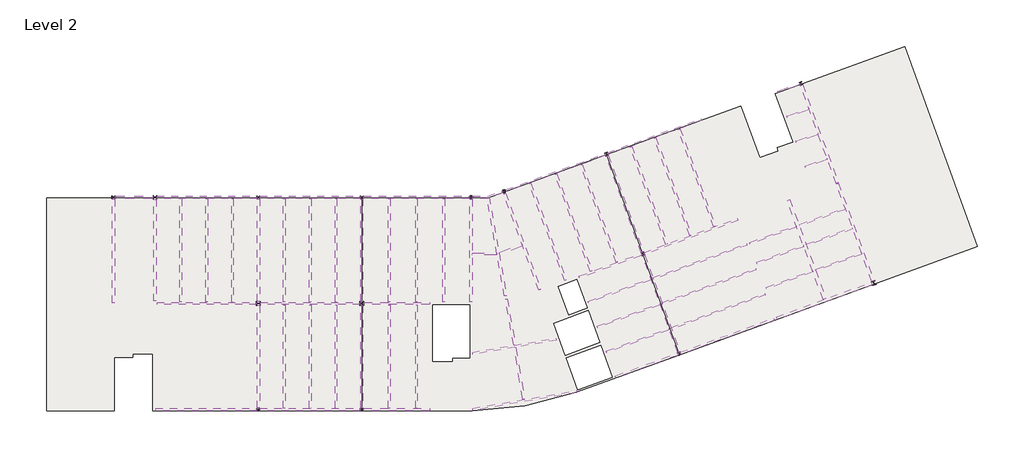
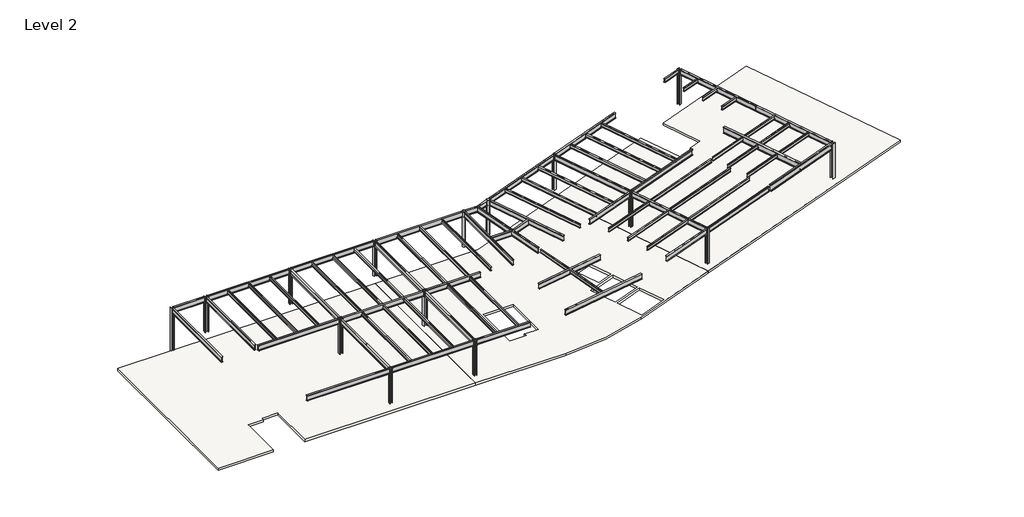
# One storey: 74 beams, 15 columns, 1 slab.
"""IFC4 building model written with IfcOpenShell, lengths in millimetres."""

from ifc_helpers import new_model, si_unit, point, frame, frame_2d, origin, place, context, project, spatial, polyline, circle_curve, trimmed, segment, composite_curve, outline, extrude, faceted_brep, transform, mapped, element, save
from components import beam_9097a8d7, ub_universal_beams_e915e172, ub_universal_beams_a95554c7, ub_universal_beams_b6dbdd7a, ub_universal_beams_885cc86f, ub_universal_beams_c84566a2, ub_universal_beams_4841b023, ub_universal_beams_20791346, ub_universal_beams_18d3feb0, ub_universal_beams_59459dd6, ub_universal_beams_568b5c51, ub_universal_beams_e00400c9, ub_universal_beams_f823aa85, ub_universal_beams_cdbcbb51, ub_universal_beams_2db27d90, ub_universal_beams_feb0265b, ub_universal_beams_78ad538f, ub_universal_beams_801fcbf0, ub_universal_beams_7192e0ee, ub_universal_beams_e0a47d06, ub_universal_beams_f5dc209c, ub_universal_beams_f862a4b8, ub_universal_beams_0fc11a2d, ub_universal_beams_7b4bcd9a, ub_universal_beams_8d1efc97, ub_universal_beams_2b7a043a, ub_universal_beams_8d2b0bf5, ub_universal_beams_43212cfb, ub_universal_beams_8ec85ef7, ub_universal_beams_16a75a32, ub_universal_beams_b9a7bbe5, ub_universal_beams_60794b88, ub_universal_beams_0c249d50, ub_universal_beams_c91190e6, ub_universal_beams_4370fdf8, ub_universal_beams_f6859559, ub_universal_beams_a9511354, ub_universal_beams_5bb895c1, ub_universal_beams_66b76362, ub_universal_beams_d54c9229, ub_universal_beams_83364cc9, ub_universal_beams_55dbae19, column_55d45f16, uc_universal_columns_column_67913ea7, uc_universal_columns_column_df0e8a14

model = new_model("IFC4")

# Units and contexts
model_context = context("Model", 3, world=origin())
ifc_project = project(units=[si_unit("LENGTHUNIT", "METRE", prefix="MILLI")], contexts=[model_context])

# Site, building, storey
site = spatial("IfcSite", under=ifc_project)
building = spatial("IfcBuilding", under=site)
storey = spatial("IfcBuildingStorey", under=building, Name="Level 2", Elevation=7595.0)

# Beams
placement = place(None, origin())
beam_shape = beam_9097a8d7(model_context)
element("IfcBeam", 1, ObjectType="Cranked Beam B3 : Cranked Beam B1", at=placement, inside=storey, context=model_context, shape_type="MappedRepresentation", body=[
    mapped(beam_shape, transform((0.0, 0.0, 0.0), x_axis=(1.0, 0.0, 0.0), y_axis=(0.0, 1.0, 0.0), z_axis=(0.0, 0.0, 1.0))),
])
ub_universal_beams_shape = ub_universal_beams_e915e172(model_context)
element("IfcBeam", 2, ObjectType="UB-Universal Beams : UB 18\" x 6\" x 2 1/2\"", at=placement, inside=storey, context=model_context, shape_type="MappedRepresentation", body=[
    mapped(ub_universal_beams_shape, transform((11712.2000023, 15363.2000005, 11471.0), x_axis=(1.0, 0.0, 0.0), y_axis=(0.0, 1.0, 0.0), z_axis=(0.0, 0.0, 1.0))),
])
ub_universal_beams_2_shape = ub_universal_beams_a95554c7(model_context)
element("IfcBeam", 3, ObjectType="UB-Universal Beams : UB 18\" x 6\" x 2 1/2\"", at=placement, inside=storey, context=model_context, shape_type="MappedRepresentation", body=[
    mapped(ub_universal_beams_2_shape, transform((19012.2000023, 15363.2000005, 11471.0), x_axis=(1.0, 0.0, 0.0), y_axis=(0.0, 1.0, 0.0), z_axis=(0.0, 0.0, 1.0))),
])
element("IfcBeam", 4, ObjectType="UB-Universal Beams : UB 18\" x 6\" x 2 1/2\"", at=placement, inside=storey, context=model_context, shape_type="MappedRepresentation", body=[
    mapped(ub_universal_beams_2_shape, transform((19012.2000022, 363.2000005, 11471.0), x_axis=(1.0, 0.0, 0.0), y_axis=(0.0, 1.0, 0.0), z_axis=(0.0, 0.0, 1.0))),
])
ub_universal_beams_3_shape = ub_universal_beams_b6dbdd7a(model_context)
element("IfcBeam", 5, ObjectType="UB-Universal Beams : UB 18\" x 6\" x 2 1/2\"", at=placement, inside=storey, context=model_context, shape_type="MappedRepresentation", body=[
    mapped(ub_universal_beams_3_shape, transform((26512.2000022, 15363.2000005, 11471.0), x_axis=(1.0, 0.0, 0.0), y_axis=(0.0, 1.0, 0.0), z_axis=(0.0, 0.0, 1.0))),
])
ub_universal_beams_4_shape = ub_universal_beams_885cc86f(model_context)
element("IfcBeam", 6, ObjectType="UB-Universal Beams : UB 18\" x 6\" x 2 1/2\"", at=placement, inside=storey, context=model_context, shape_type="MappedRepresentation", body=[
    mapped(ub_universal_beams_4_shape, transform((11674.7000023, 363.2000005, 11471.0), x_axis=(-1.0, 0.0, 0.0), y_axis=(0.0, -1.0, 0.0), z_axis=(0.0, 0.0, 1.0))),
])
ub_universal_beams_5_shape = ub_universal_beams_c84566a2(model_context)
element("IfcBeam", 7, ObjectType="UB-Universal Beams : UB 18\" x 6\" x 2 1/2\"", at=placement, inside=storey, context=model_context, shape_type="MappedRepresentation", body=[
    mapped(ub_universal_beams_5_shape, transform((19012.2000023, 7863.2000004, 11471.0), x_axis=(1.0, 0.0, 0.0), y_axis=(0.0, 1.0, 0.0), z_axis=(0.0, 0.0, 1.0))),
])
ub_universal_beams_6_shape = ub_universal_beams_4841b023(model_context)
element("IfcBeam", 8, ObjectType="UB-Universal Beams : UB 18\" x 6\" x 2 1/2\"", at=placement, inside=storey, context=model_context, shape_type="MappedRepresentation", body=[
    mapped(ub_universal_beams_6_shape, transform((25112.2000025, 7863.2000004, 11471.0), x_axis=(1.0, 0.0, 0.0), y_axis=(0.0, 1.0, 0.0), z_axis=(0.0, 0.0, 1.0))),
])
ub_universal_beams_7_shape = ub_universal_beams_20791346(model_context)
element("IfcBeam", 9, ObjectType="UB-Universal Beams : UB 18\" x 6\" x 2 1/2\"", at=placement, inside=storey, context=model_context, shape_type="MappedRepresentation", body=[
    mapped(ub_universal_beams_7_shape, transform((25112.2000025, 363.2000005, 11471.0), x_axis=(1.0, 0.0, 0.0), y_axis=(0.0, 1.0, 0.0), z_axis=(0.0, 0.0, 1.0))),
])
ub_universal_beams_8_shape = ub_universal_beams_18d3feb0(model_context)
element("IfcBeam", 10, ObjectType="UB-Universal Beams : UB 18\" x 6\" x 2 1/2\"", at=placement, inside=storey, context=model_context, shape_type="MappedRepresentation", body=[
    mapped(ub_universal_beams_8_shape, transform((8062.2000022, 11613.2000005, 11471.0), x_axis=(0.0, 1.0, 0.0), y_axis=(-1.0, 0.0, 0.0), z_axis=(0.0, 0.0, 1.0))),
])
ub_universal_beams_9_shape = ub_universal_beams_59459dd6(model_context)
element("IfcBeam", 11, ObjectType="UB-Universal Beams : UB 18\" x 6\" x 2 1/2\"", at=placement, inside=storey, context=model_context, shape_type="MappedRepresentation", body=[
    mapped(ub_universal_beams_9_shape, transform((15362.2000023, 4113.2000005, 11471.0), x_axis=(0.0, 1.0, 0.0), y_axis=(-1.0, 0.0, 0.0), z_axis=(0.0, 0.0, 1.0))),
])
element("IfcBeam", 12, ObjectType="UB-Universal Beams : UB 18\" x 6\" x 2 1/2\"", at=placement, inside=storey, context=model_context, shape_type="MappedRepresentation", body=[
    mapped(ub_universal_beams_9_shape, transform((22662.2000022, 4113.2000005, 11471.0), x_axis=(0.0, 1.0, 0.0), y_axis=(-1.0, 0.0, 0.0), z_axis=(0.0, 0.0, 1.0))),
])
ub_universal_beams_10_shape = ub_universal_beams_568b5c51(model_context)
element("IfcBeam", 13, ObjectType="UB-Universal Beams : UB 18\" x 6\" x 2 1/2\"", at=placement, inside=storey, context=model_context, shape_type="MappedRepresentation", body=[
    mapped(ub_universal_beams_10_shape, transform((15362.2000023, 11613.2000005, 11471.0), x_axis=(0.0, 1.0, 0.0), y_axis=(-1.0, 0.0, 0.0), z_axis=(0.0, 0.0, 1.0))),
])
element("IfcBeam", 14, ObjectType="UB-Universal Beams : UB 18\" x 6\" x 2 1/2\"", at=placement, inside=storey, context=model_context, shape_type="MappedRepresentation", body=[
    mapped(ub_universal_beams_10_shape, transform((22662.2000022, 11613.2000005, 11471.0), x_axis=(0.0, 1.0, 0.0), y_axis=(-1.0, 0.0, 0.0), z_axis=(0.0, 0.0, 1.0))),
])
ub_universal_beams_11_shape = ub_universal_beams_e00400c9(model_context)
element("IfcBeam", 15, ObjectType="UB-Universal Beams : UB 18\" x 6\" x 2 1/2\"", at=placement, inside=storey, context=model_context, shape_type="MappedRepresentation", body=[
    mapped(ub_universal_beams_11_shape, transform((30362.2000022, 11613.2000005, 11471.0), x_axis=(0.0, 1.0, 0.0), y_axis=(-1.0, 0.0, 0.0), z_axis=(0.0, 0.0, 1.0))),
])
ub_universal_beams_12_shape = ub_universal_beams_f823aa85(model_context)
element("IfcBeam", 16, ObjectType="UB-Universal Beams : UB 12\" x 5\" x 1 1/2\"", at=placement, inside=storey, context=model_context, shape_type="MappedRepresentation", body=[
    mapped(ub_universal_beams_12_shape, transform((9887.2000022, 11613.2000005, 11547.8), x_axis=(0.0, 1.0, 0.0), y_axis=(-1.0, 0.0, 0.0), z_axis=(0.0, 0.0, 1.0))),
])
element("IfcBeam", 17, ObjectType="UB-Universal Beams : UB 12\" x 5\" x 1 1/2\"", at=placement, inside=storey, context=model_context, shape_type="MappedRepresentation", body=[
    mapped(ub_universal_beams_12_shape, transform((11712.2000022, 11613.2000005, 11547.8), x_axis=(0.0, 1.0, 0.0), y_axis=(-1.0, 0.0, 0.0), z_axis=(0.0, 0.0, 1.0))),
])
element("IfcBeam", 18, ObjectType="UB-Universal Beams : UB 12\" x 5\" x 1 1/2\"", at=placement, inside=storey, context=model_context, shape_type="MappedRepresentation", body=[
    mapped(ub_universal_beams_12_shape, transform((13537.2000023, 11613.2000005, 11547.8), x_axis=(0.0, 1.0, 0.0), y_axis=(-1.0, 0.0, 0.0), z_axis=(0.0, 0.0, 1.0))),
])
element("IfcBeam", 19, ObjectType="UB-Universal Beams : UB 12\" x 5\" x 1 1/2\"", at=placement, inside=storey, context=model_context, shape_type="MappedRepresentation", body=[
    mapped(ub_universal_beams_12_shape, transform((17187.2000023, 11613.2000005, 11547.8), x_axis=(0.0, 1.0, 0.0), y_axis=(-1.0, 0.0, 0.0), z_axis=(0.0, 0.0, 1.0))),
])
element("IfcBeam", 20, ObjectType="UB-Universal Beams : UB 12\" x 5\" x 1 1/2\"", at=placement, inside=storey, context=model_context, shape_type="MappedRepresentation", body=[
    mapped(ub_universal_beams_12_shape, transform((19012.2000023, 11613.2000005, 11547.8), x_axis=(0.0, 1.0, 0.0), y_axis=(-1.0, 0.0, 0.0), z_axis=(0.0, 0.0, 1.0))),
])
element("IfcBeam", 21, ObjectType="UB-Universal Beams : UB 12\" x 5\" x 1 1/2\"", at=placement, inside=storey, context=model_context, shape_type="MappedRepresentation", body=[
    mapped(ub_universal_beams_12_shape, transform((20837.2000022, 11613.2000005, 11547.8), x_axis=(0.0, 1.0, 0.0), y_axis=(-1.0, 0.0, 0.0), z_axis=(0.0, 0.0, 1.0))),
])
element("IfcBeam", 22, ObjectType="UB-Universal Beams : UB 12\" x 5\" x 1 1/2\"", at=placement, inside=storey, context=model_context, shape_type="MappedRepresentation", body=[
    mapped(ub_universal_beams_12_shape, transform((24587.2000022, 11613.2000005, 11547.8), x_axis=(0.0, 1.0, 0.0), y_axis=(-1.0, 0.0, 0.0), z_axis=(0.0, 0.0, 1.0))),
])
element("IfcBeam", 23, ObjectType="UB-Universal Beams : UB 12\" x 5\" x 1 1/2\"", at=placement, inside=storey, context=model_context, shape_type="MappedRepresentation", body=[
    mapped(ub_universal_beams_12_shape, transform((26512.2000022, 11613.2000005, 11547.8), x_axis=(0.0, 1.0, 0.0), y_axis=(-1.0, 0.0, 0.0), z_axis=(0.0, 0.0, 1.0))),
])
element("IfcBeam", 24, ObjectType="UB-Universal Beams : UB 12\" x 5\" x 1 1/2\"", at=placement, inside=storey, context=model_context, shape_type="MappedRepresentation", body=[
    mapped(ub_universal_beams_12_shape, transform((17187.2000022, 4113.2000005, 11547.8), x_axis=(0.0, 1.0, 0.0), y_axis=(-1.0, 0.0, 0.0), z_axis=(0.0, 0.0, 1.0))),
])
element("IfcBeam", 25, ObjectType="UB-Universal Beams : UB 12\" x 5\" x 1 1/2\"", at=placement, inside=storey, context=model_context, shape_type="MappedRepresentation", body=[
    mapped(ub_universal_beams_12_shape, transform((19012.2000022, 4113.2000005, 11547.8), x_axis=(0.0, 1.0, 0.0), y_axis=(-1.0, 0.0, 0.0), z_axis=(0.0, 0.0, 1.0))),
])
element("IfcBeam", 26, ObjectType="UB-Universal Beams : UB 12\" x 5\" x 1 1/2\"", at=placement, inside=storey, context=model_context, shape_type="MappedRepresentation", body=[
    mapped(ub_universal_beams_12_shape, transform((20837.2000022, 4113.2000005, 11547.8), x_axis=(0.0, 1.0, 0.0), y_axis=(-1.0, 0.0, 0.0), z_axis=(0.0, 0.0, 1.0))),
])
element("IfcBeam", 27, ObjectType="UB-Universal Beams : UB 12\" x 5\" x 1 1/2\"", at=placement, inside=storey, context=model_context, shape_type="MappedRepresentation", body=[
    mapped(ub_universal_beams_12_shape, transform((24587.2000022, 4113.2000004, 11547.8), x_axis=(0.0, 1.0, 0.0), y_axis=(-1.0, 0.0, 0.0), z_axis=(0.0, 0.0, 1.0))),
])
element("IfcBeam", 28, ObjectType="UB-Universal Beams : UB 12\" x 5\" x 1 1/2\"", at=placement, inside=storey, context=model_context, shape_type="MappedRepresentation", body=[
    mapped(ub_universal_beams_12_shape, transform((26512.2000022, 4113.2000004, 11547.8), x_axis=(0.0, 1.0, 0.0), y_axis=(-1.0, 0.0, 0.0), z_axis=(0.0, 0.0, 1.0))),
])
element("IfcBeam", 29, ObjectType="UB-Universal Beams : UB 12\" x 5\" x 1 1/2\"", at=placement, inside=storey, context=model_context, shape_type="MappedRepresentation", body=[
    mapped(ub_universal_beams_12_shape, transform((39409.0148654, 14226.6858637, 11547.8), x_axis=(0.34202014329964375, -0.9396926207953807, 0.0), y_axis=(0.9396926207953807, 0.34202014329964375, 0.0), z_axis=(0.0, 0.0, 1.0))),
])
element("IfcBeam", 30, ObjectType="UB-Universal Beams : UB 12\" x 5\" x 1 1/2\"", at=placement, inside=storey, context=model_context, shape_type="MappedRepresentation", body=[
    mapped(ub_universal_beams_12_shape, transform((37600.1065704, 13568.2970878, 11547.8), x_axis=(0.34202014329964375, -0.9396926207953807, 0.0), y_axis=(0.9396926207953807, 0.34202014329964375, 0.0), z_axis=(0.0, 0.0, 1.0))),
])
element("IfcBeam", 31, ObjectType="UB-Universal Beams : UB 12\" x 5\" x 1 1/2\"", at=placement, inside=storey, context=model_context, shape_type="MappedRepresentation", body=[
    mapped(ub_universal_beams_12_shape, transform((42915.2429568, 15502.8485233, 11547.8), x_axis=(-0.3420201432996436, 0.9396926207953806, 0.0), y_axis=(-0.9396926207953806, -0.3420201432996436, 0.0), z_axis=(0.0, 0.0, 1.0))),
])
element("IfcBeam", 32, ObjectType="UB-Universal Beams : UB 12\" x 5\" x 1 1/2\"", at=placement, inside=storey, context=model_context, shape_type="MappedRepresentation", body=[
    mapped(ub_universal_beams_12_shape, transform((44612.5627531, 16120.6224071, 11547.8), x_axis=(-0.34202014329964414, 0.9396926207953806, 0.0), y_axis=(-0.9396926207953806, -0.34202014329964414, 0.0), z_axis=(0.0, 0.0, 1.0))),
])
element("IfcBeam", 33, ObjectType="UB-Universal Beams : UB 12\" x 5\" x 1 1/2\"", at=placement, inside=storey, context=model_context, shape_type="MappedRepresentation", body=[
    mapped(ub_universal_beams_12_shape, transform((46309.8825494, 16738.396291, 11547.8), x_axis=(-0.34202014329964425, 0.9396926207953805, 0.0), y_axis=(-0.9396926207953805, -0.34202014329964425, 0.0), z_axis=(0.0, 0.0, 1.0))),
])
ub_universal_beams_13_shape = ub_universal_beams_cdbcbb51(model_context)
element("IfcBeam", 34, ObjectType="UB-Universal Beams : UB 12\" x 5\" x 1 1/2\"", at=placement, inside=storey, context=model_context, shape_type="MappedRepresentation", body=[
    mapped(ub_universal_beams_13_shape, transform((28437.2000022, 11613.2000005, 11547.8), x_axis=(0.0, 1.0, 0.0), y_axis=(-1.0, 0.0, 0.0), z_axis=(0.0, 0.0, 1.0))),
])
ub_universal_beams_14_shape = ub_universal_beams_2db27d90(model_context)
element("IfcBeam", 35, ObjectType="UB-Universal Beams : UB 18\" x 6\" x 2 1/2\"", at=placement, inside=storey, context=model_context, shape_type="MappedRepresentation", body=[
    mapped(ub_universal_beams_14_shape, transform((33982.2899804, 12251.5195361, 11471.0), x_axis=(0.3420201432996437, -0.9396926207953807, 0.0), y_axis=(0.9396926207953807, 0.3420201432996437, 0.0), z_axis=(0.0, 0.0, 1.0))),
])
ub_universal_beams_15_shape = ub_universal_beams_feb0265b(model_context)
element("IfcBeam", 36, ObjectType="UB-Universal Beams : UB 18\" x 6\" x 2 1/2\"", at=placement, inside=storey, context=model_context, shape_type="MappedRepresentation", body=[
    mapped(ub_universal_beams_15_shape, transform((32191.7898055, 11821.5156209, 11471.0), x_axis=(0.173648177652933, -0.9848077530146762, 0.0), y_axis=(0.9848077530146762, 0.173648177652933, 0.0), z_axis=(0.0, 0.0, 1.0))),
])
ub_universal_beams_16_shape = ub_universal_beams_78ad538f(model_context)
element("IfcBeam", 37, ObjectType="UB-Universal Beams : UB 18\" x 6\" x 2 1/2\"", at=placement, inside=storey, context=model_context, shape_type="MappedRepresentation", body=[
    mapped(ub_universal_beams_16_shape, transform((31317.5755278, 11361.2273115, 11471.0), x_axis=(1.0, 0.0, 0.0), y_axis=(0.0, 1.0, 0.0), z_axis=(0.0, 0.0, 1.0))),
])
ub_universal_beams_17_shape = ub_universal_beams_801fcbf0(model_context)
element("IfcBeam", 38, ObjectType="UB-Universal Beams : UB 18\" x 6\" x 2 1/2\"", at=placement, inside=storey, context=model_context, shape_type="MappedRepresentation", body=[
    mapped(ub_universal_beams_17_shape, transform((33170.7103845, 11687.9849855, 11471.0), x_axis=(0.9396926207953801, 0.3420201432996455, 0.0), y_axis=(-0.3420201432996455, 0.9396926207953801, 0.0), z_axis=(0.0, 0.0, 1.0))),
])
ub_universal_beams_18_shape = ub_universal_beams_7192e0ee(model_context)
element("IfcBeam", 39, ObjectType="UB-Universal Beams : UB 18\" x 6\" x 2 1/2\"", at=placement, inside=storey, context=model_context, shape_type="MappedRepresentation", body=[
    mapped(ub_universal_beams_18_shape, transform((43329.9872158, 19644.4697351, 11471.0), x_axis=(0.9396926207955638, 0.3420201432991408, 0.0), y_axis=(-0.3420201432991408, 0.9396926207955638, 0.0), z_axis=(0.0, 0.0, 1.0))),
])
element("IfcBeam", 40, ObjectType="UB-Universal Beams : UB 18\" x 6\" x 2 1/2\"", at=placement, inside=storey, context=model_context, shape_type="MappedRepresentation", body=[
    mapped(ub_universal_beams_18_shape, transform((45895.1382905, 12596.7750792, 11471.0), x_axis=(0.9396926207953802, 0.34202014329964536, 0.0), y_axis=(-0.34202014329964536, 0.9396926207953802, 0.0), z_axis=(0.0, 0.0, 1.0))),
])
element("IfcBeam", 41, ObjectType="UB-Universal Beams : UB 18\" x 6\" x 2 1/2\"", at=placement, inside=storey, context=model_context, shape_type="MappedRepresentation", body=[
    mapped(ub_universal_beams_18_shape, transform((48460.2893652, 5549.0804232, 11471.0), x_axis=(0.9396926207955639, 0.3420201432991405, 0.0), y_axis=(-0.3420201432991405, 0.9396926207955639, 0.0), z_axis=(0.0, 0.0, 1.0))),
])
ub_universal_beams_19_shape = ub_universal_beams_e0a47d06(model_context)
element("IfcBeam", 42, ObjectType="UB-Universal Beams : UB 18\" x 6\" x 2 1/2\"", at=placement, inside=storey, context=model_context, shape_type="MappedRepresentation", body=[
    mapped(ub_universal_beams_19_shape, transform((40198.2517768, 10523.2779603, 11471.0), x_axis=(0.9396926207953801, 0.34202014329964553, 0.0), y_axis=(-0.34202014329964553, 0.9396926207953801, 0.0), z_axis=(0.0, 0.0, 1.0))),
])
ub_universal_beams_20_shape = ub_universal_beams_f5dc209c(model_context)
element("IfcBeam", 43, ObjectType="UB-Universal Beams : UB 18\" x 6\" x 2 1/2\"", at=placement, inside=storey, context=model_context, shape_type="MappedRepresentation", body=[
    mapped(ub_universal_beams_20_shape, transform((41217.9231605, 14885.0746394, 11471.0), x_axis=(-0.3420201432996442, 0.9396926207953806, 0.0), y_axis=(-0.9396926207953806, -0.3420201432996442, 0.0), z_axis=(0.0, 0.0, 1.0))),
])
element("IfcBeam", 44, ObjectType="UB-Universal Beams : UB 18\" x 6\" x 2 1/2\"", at=placement, inside=storey, context=model_context, shape_type="MappedRepresentation", body=[
    mapped(ub_universal_beams_20_shape, transform((43783.0742352, 7837.3799835, 11471.0), x_axis=(-0.3420201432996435, 0.939692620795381, 0.0), y_axis=(-0.939692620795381, -0.3420201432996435, 0.0), z_axis=(0.0, 0.0, 1.0))),
])
ub_universal_beams_21_shape = ub_universal_beams_f862a4b8(model_context)
element("IfcBeam", 45, ObjectType="UB-Universal Beams : UB 18\" x 6\" x 2 1/2\"", at=placement, inside=storey, context=model_context, shape_type="MappedRepresentation", body=[
    mapped(ub_universal_beams_21_shape, transform((42763.4028515, 3475.5833044, 11471.0), x_axis=(-0.9396926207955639, -0.34202014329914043, 0.0), y_axis=(0.34202014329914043, -0.9396926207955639, 0.0), z_axis=(0.0, 0.0, 1.0))),
])
ub_universal_beams_22_shape = ub_universal_beams_0fc11a2d(model_context)
element("IfcBeam", 46, ObjectType="UB-Universal Beams : UB 20 1/2\" x 8 1/2\" x 3 1/2\"", at=placement, inside=storey, context=model_context, shape_type="MappedRepresentation", body=[
    mapped(ub_universal_beams_22_shape, transform((55320.045497, 8045.8274693, 11435.85), x_axis=(0.9396926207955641, 0.3420201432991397, 0.0), y_axis=(-0.3420201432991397, 0.9396926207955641, 0.0), z_axis=(0.0, 0.0, 1.0))),
])
ub_universal_beams_23_shape = ub_universal_beams_7b4bcd9a(model_context)
element("IfcBeam", 47, ObjectType="UB-Universal Beams : UB 18\" x 6\" x 2 1/2\"", at=placement, inside=storey, context=model_context, shape_type="MappedRepresentation", body=[
    mapped(ub_universal_beams_23_shape, transform((54937.4354241, 19878.5687316, 11471.0), x_axis=(-0.3420201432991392, 0.9396926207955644, 0.0), y_axis=(-0.9396926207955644, -0.3420201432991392, 0.0), z_axis=(0.0, 0.0, 1.0))),
])
ub_universal_beams_24_shape = ub_universal_beams_8d1efc97(model_context)
element("IfcBeam", 48, ObjectType="UB-Universal Beams : UB 12\" x 5\" x 1 1/2\"", at=placement, inside=storey, context=model_context, shape_type="MappedRepresentation", body=[
    mapped(ub_universal_beams_24_shape, transform((35791.1982754, 12909.908312, 11547.8), x_axis=(0.3420201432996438, -0.9396926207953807, 0.0), y_axis=(0.9396926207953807, 0.3420201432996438, 0.0), z_axis=(0.0, 0.0, 1.0))),
])
ub_universal_beams_25_shape = ub_universal_beams_2b7a043a(model_context)
element("IfcBeam", 49, ObjectType="UB-Universal Beams : UB 12\" x 5\" x 1 1/2\"", at=placement, inside=storey, context=model_context, shape_type="MappedRepresentation", body=[
    mapped(ub_universal_beams_25_shape, transform((42122.1150828, 5237.5069684, 11547.8), x_axis=(-0.939692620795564, -0.3420201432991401, 0.0), y_axis=(0.3420201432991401, -0.939692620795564, 0.0), z_axis=(0.0, 0.0, 1.0))),
])
element("IfcBeam", 50, ObjectType="UB-Universal Beams : UB 12\" x 5\" x 1 1/2\"", at=placement, inside=storey, context=model_context, shape_type="MappedRepresentation", body=[
    mapped(ub_universal_beams_25_shape, transform((41480.8273141, 6999.4306323, 11547.8), x_axis=(-0.9396926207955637, -0.3420201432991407, 0.0), y_axis=(0.3420201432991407, -0.9396926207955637, 0.0), z_axis=(0.0, 0.0, 1.0))),
])
element("IfcBeam", 51, ObjectType="UB-Universal Beams : UB 12\" x 5\" x 1 1/2\"", at=placement, inside=storey, context=model_context, shape_type="MappedRepresentation", body=[
    mapped(ub_universal_beams_25_shape, transform((40839.5395455, 8761.3542963, 11547.8), x_axis=(-0.939692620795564, -0.3420201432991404, 0.0), y_axis=(0.3420201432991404, -0.939692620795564, 0.0), z_axis=(0.0, 0.0, 1.0))),
])
ub_universal_beams_26_shape = ub_universal_beams_8d2b0bf5(model_context)
element("IfcBeam", 52, ObjectType="UB-Universal Beams : UB 12\" x 5\" x 1 1/2\"", at=placement, inside=storey, context=model_context, shape_type="MappedRepresentation", body=[
    mapped(ub_universal_beams_26_shape, transform((46536.4260592, 10834.8514152, 11547.8), x_axis=(0.9396926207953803, 0.342020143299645, 0.0), y_axis=(-0.342020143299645, 0.9396926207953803, 0.0), z_axis=(0.0, 0.0, 1.0))),
])
element("IfcBeam", 53, ObjectType="UB-Universal Beams : UB 12\" x 5\" x 1 1/2\"", at=placement, inside=storey, context=model_context, shape_type="MappedRepresentation", body=[
    mapped(ub_universal_beams_26_shape, transform((47177.7138279, 9072.9277512, 11547.8), x_axis=(0.93969262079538, 0.34202014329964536, 0.0), y_axis=(-0.34202014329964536, 0.93969262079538, 0.0), z_axis=(0.0, 0.0, 1.0))),
])
element("IfcBeam", 54, ObjectType="UB-Universal Beams : UB 12\" x 5\" x 1 1/2\"", at=placement, inside=storey, context=model_context, shape_type="MappedRepresentation", body=[
    mapped(ub_universal_beams_26_shape, transform((47819.0015966, 7311.0040872, 11547.8), x_axis=(0.9396926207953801, 0.3420201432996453, 0.0), y_axis=(-0.3420201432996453, 0.9396926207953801, 0.0), z_axis=(0.0, 0.0, 1.0))),
])
ub_universal_beams_27_shape = ub_universal_beams_43212cfb(model_context)
element("IfcBeam", 55, ObjectType="UB-Universal Beams : UB 18\" x 6\" x 2 1/2\"", at=placement, inside=storey, context=model_context, shape_type="MappedRepresentation", body=[
    mapped(ub_universal_beams_27_shape, transform((57502.5864988, 12830.8740757, 11471.0), x_axis=(0.3420201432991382, -0.9396926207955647, 0.0), y_axis=(0.9396926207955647, 0.3420201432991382, 0.0), z_axis=(0.0, 0.0, 1.0))),
])
ub_universal_beams_28_shape = ub_universal_beams_8ec85ef7(model_context)
element("IfcBeam", 56, ObjectType="UB-Universal Beams : UB 20 1/2\" x 8 1/2\" x 3 1/2\"", at=placement, inside=storey, context=model_context, shape_type="MappedRepresentation", body=[
    mapped(ub_universal_beams_28_shape, transform((54042.3541451, 11665.8982726, 11435.85), x_axis=(-0.34202014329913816, 0.9396926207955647, 0.0), y_axis=(-0.9396926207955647, -0.34202014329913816, 0.0), z_axis=(0.0, 0.0, 1.0))),
])
ub_universal_beams_29_shape = ub_universal_beams_16a75a32(model_context)
element("IfcBeam", 57, ObjectType="UB-Universal Beams : UB 12\" x 5\" x 1 1/2\"", at=placement, inside=storey, context=model_context, shape_type="MappedRepresentation", body=[
    mapped(ub_universal_beams_29_shape, transform((52185.7228693, 11321.365084, 11547.8), x_axis=(0.9396926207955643, 0.3420201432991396, 0.0), y_axis=(-0.3420201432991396, 0.9396926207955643, 0.0), z_axis=(0.0, 0.0, 1.0))),
])
element("IfcBeam", 58, ObjectType="UB-Universal Beams : UB 12\" x 5\" x 1 1/2\"", at=placement, inside=storey, context=model_context, shape_type="MappedRepresentation", body=[
    mapped(ub_universal_beams_29_shape, transform((51681.2431579, 12707.4116997, 11547.8), x_axis=(0.9396926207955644, 0.34202014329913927, 0.0), y_axis=(-0.34202014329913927, 0.9396926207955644, 0.0), z_axis=(0.0, 0.0, 1.0))),
])
ub_universal_beams_30_shape = ub_universal_beams_b9a7bbe5(model_context)
element("IfcBeam", 59, ObjectType="UB-Universal Beams : UB 12\" x 5\" x 1 1/2\"", at=placement, inside=storey, context=model_context, shape_type="MappedRepresentation", body=[
    mapped(ub_universal_beams_30_shape, transform((55650.8394085, 12582.5643624, 11547.8), x_axis=(0.939692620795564, 0.34202014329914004, 0.0), y_axis=(-0.34202014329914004, 0.939692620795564, 0.0), z_axis=(0.0, 0.0, 1.0))),
])
element("IfcBeam", 60, ObjectType="UB-Universal Beams : UB 12\" x 5\" x 1 1/2\"", at=placement, inside=storey, context=model_context, shape_type="MappedRepresentation", body=[
    mapped(ub_universal_beams_30_shape, transform((56300.6776807, 10797.1483829, 11547.8), x_axis=(0.9396926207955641, 0.3420201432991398, 0.0), y_axis=(-0.3420201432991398, 0.9396926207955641, 0.0), z_axis=(0.0, 0.0, 1.0))),
])
element("IfcBeam", 61, ObjectType="UB-Universal Beams : UB 12\" x 5\" x 1 1/2\"", at=placement, inside=storey, context=model_context, shape_type="MappedRepresentation", body=[
    mapped(ub_universal_beams_30_shape, transform((55146.3596971, 13968.6109781, 11547.8), x_axis=(0.9396926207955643, 0.34202014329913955, 0.0), y_axis=(-0.34202014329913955, 0.9396926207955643, 0.0), z_axis=(0.0, 0.0, 1.0))),
])
ub_universal_beams_31_shape = ub_universal_beams_60794b88(model_context)
element("IfcBeam", 62, ObjectType="UB-Universal Beams : UB 12\" x 5\" x 1 1/2\"", at=placement, inside=storey, context=model_context, shape_type="MappedRepresentation", body=[
    mapped(ub_universal_beams_31_shape, transform((53431.3248942, 21325.7226526, 11547.8), x_axis=(-0.939692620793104, -0.34202014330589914, 0.0), y_axis=(0.34202014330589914, -0.939692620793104, 0.0), z_axis=(0.0, 0.0, 1.0))),
])
element("IfcBeam", 63, ObjectType="UB-Universal Beams : UB 12\" x 5\" x 1 1/2\"", at=placement, inside=storey, context=model_context, shape_type="MappedRepresentation", body=[
    mapped(ub_universal_beams_31_shape, transform((54072.6126629, 19563.7989886, 11547.8), x_axis=(-0.939692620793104, -0.3420201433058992, 0.0), y_axis=(0.3420201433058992, -0.939692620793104, 0.0), z_axis=(0.0, 0.0, 1.0))),
])
element("IfcBeam", 64, ObjectType="UB-Universal Beams : UB 12\" x 5\" x 1 1/2\"", at=placement, inside=storey, context=model_context, shape_type="MappedRepresentation", body=[
    mapped(ub_universal_beams_31_shape, transform((54713.9004316, 17801.8753247, 11547.8), x_axis=(-0.939692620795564, -0.34202014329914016, 0.0), y_axis=(0.34202014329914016, -0.939692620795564, 0.0), z_axis=(0.0, 0.0, 1.0))),
])
ub_universal_beams_32_shape = ub_universal_beams_0c249d50(model_context)
element("IfcBeam", 65, ObjectType="UB-Universal Beams : UB 12\" x 5\" x 1 1/2\"", at=placement, inside=storey, context=model_context, shape_type="MappedRepresentation", body=[
    mapped(ub_universal_beams_32_shape, transform((52835.5611416, 9535.9491045, 11547.8), x_axis=(-0.9396926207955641, -0.34202014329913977, 0.0), y_axis=(0.34202014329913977, -0.9396926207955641, 0.0), z_axis=(0.0, 0.0, 1.0))),
])
ub_universal_beams_33_shape = ub_universal_beams_c91190e6(model_context)
element("IfcBeam", 66, ObjectType="UB-Universal Beams : UB 18\" x 6\" x 2 1/2\"", at=placement, inside=storey, context=model_context, shape_type="MappedRepresentation", body=[
    mapped(ub_universal_beams_33_shape, transform((36317.5310328, 17092.1444158, 11471.0), x_axis=(0.9396926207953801, 0.3420201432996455, 0.0), y_axis=(-0.3420201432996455, 0.9396926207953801, 0.0), z_axis=(0.0, 0.0, 1.0))),
])
ub_universal_beams_34_shape = ub_universal_beams_4370fdf8(model_context)
element("IfcBeam", 67, ObjectType="UB-Universal Beams : UB 18\" x 6\" x 2 1/2\"", at=placement, inside=storey, context=model_context, shape_type="MappedRepresentation", body=[
    mapped(ub_universal_beams_34_shape, transform((6543.0666692, 15363.2000005, 11471.0), x_axis=(1.0, 0.0, 0.0), y_axis=(0.0, 1.0, 0.0), z_axis=(0.0, 0.0, 1.0))),
])
ub_universal_beams_35_shape = ub_universal_beams_f6859559(model_context)
element("IfcBeam", 68, ObjectType="UB-Universal Beams : UB 18\" x 6\" x 2 1/2\"", at=placement, inside=storey, context=model_context, shape_type="MappedRepresentation", body=[
    mapped(ub_universal_beams_35_shape, transform((11675.1750024, 7863.2000004, 11471.0), x_axis=(-1.0, 0.0, 0.0), y_axis=(0.0, -1.0, 0.0), z_axis=(0.0, 0.0, 1.0))),
])
ub_universal_beams_36_shape = ub_universal_beams_a9511354(model_context)
element("IfcBeam", 69, ObjectType="UB-Universal Beams : UB 18\" x 6\" x 2 1/2\"", at=placement, inside=storey, context=model_context, shape_type="MappedRepresentation", body=[
    mapped(ub_universal_beams_36_shape, transform((5131.8666692, 11575.7000004, 11471.0), x_axis=(0.0, -1.0, 0.0), y_axis=(1.0, 0.0, 0.0), z_axis=(0.0, 0.0, 1.0))),
])
ub_universal_beams_37_shape = ub_universal_beams_5bb895c1(model_context)
element("IfcBeam", 70, ObjectType="UB-Universal Beams : UB 12\" x 5\" x 1 1/2\"", at=placement, inside=storey, context=model_context, shape_type="MappedRepresentation", body=[
    mapped(ub_universal_beams_37_shape, transform((52790.0371255, 23087.6463166, 11547.8), x_axis=(-0.939692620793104, -0.34202014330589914, 0.0), y_axis=(0.34202014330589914, -0.939692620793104, 0.0), z_axis=(0.0, 0.0, 1.0))),
])
ub_universal_beams_38_shape = ub_universal_beams_66b76362(model_context)
element("IfcBeam", 71, ObjectType="UB-Universal Beams : UB 18\" x 6\" x 2 1/2\"", at=placement, inside=storey, context=model_context, shape_type="MappedRepresentation", body=[
    mapped(ub_universal_beams_38_shape, transform((34104.0944675, 999.6469535, 11471.0), x_axis=(0.985841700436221, 0.1676786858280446, 0.0), y_axis=(-0.1676786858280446, 0.985841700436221, 0.0), z_axis=(0.0, 0.0, 1.0))),
])
ub_universal_beams_39_shape = ub_universal_beams_d54c9229(model_context)
element("IfcBeam", 72, ObjectType="UB-Universal Beams : UB 18\" x 6\" x 2 1/2\"", at=placement, inside=storey, context=model_context, shape_type="MappedRepresentation", body=[
    mapped(ub_universal_beams_39_shape, transform((33427.1029223, 4834.8322654, 11471.0), x_axis=(0.9858417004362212, 0.1676786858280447, 0.0), y_axis=(-0.1676786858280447, 0.9858417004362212, 0.0), z_axis=(0.0, 0.0, 1.0))),
])
ub_universal_beams_40_shape = ub_universal_beams_83364cc9(model_context)
element("IfcBeam", 73, ObjectType="UB-Universal Beams : UB 12\" x 5\" x 1 1/2\"", at=placement, inside=storey, context=model_context, shape_type="MappedRepresentation", body=[
    mapped(ub_universal_beams_40_shape, transform((33777.5903073, 2919.2792248, 11547.8), x_axis=(-0.16767868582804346, 0.9858417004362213, 0.0), y_axis=(-0.9858417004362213, -0.16767868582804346, 0.0), z_axis=(0.0, 0.0, 1.0))),
])
ub_universal_beams_41_shape = ub_universal_beams_55dbae19(model_context)
element("IfcBeam", 74, ObjectType="UB-Universal Beams : UB 12\" x 5\" x 1 1/2\"", at=placement, inside=storey, context=model_context, shape_type="MappedRepresentation", body=[
    mapped(ub_universal_beams_41_shape, transform((33147.2993723, 6561.7719088, 11547.8), x_axis=(-0.17364817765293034, 0.9848077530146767, 0.0), y_axis=(-0.9848077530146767, -0.17364817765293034, 0.0), z_axis=(0.0, 0.0, 1.0))),
])

# Columns
column_shape = column_55d45f16(model_context)
element("IfcColumn", 75, ObjectType="Circular Hollow Sections-Column : CHS 9 1/2\" x 1/4\"", at=placement, inside=storey, context=model_context, shape_type="MappedRepresentation", body=[
    mapped(column_shape, transform((30362.2000022, 15363.2000005, 0.0), x_axis=(0.0, 1.0, 0.0), y_axis=(-1.0, 0.0, 0.0), z_axis=(0.0, 0.0, 1.0))),
])
element("IfcColumn", 76, ObjectType="Circular Hollow Sections-Column : CHS 9 1/2\" x 1/4\"", at=placement, inside=storey, context=model_context, shape_type="MappedRepresentation", body=[
    mapped(column_shape, transform((32699.714443, 15775.3668642, 0.0), x_axis=(1.0, 0.0, 0.0), y_axis=(0.0, 1.0, 0.0), z_axis=(0.0, 0.0, 1.0))),
])
element("IfcColumn", 77, ObjectType="UC-Universal Columns-Column : UC 8\" x 8\" x 3\"", at=placement, inside=storey, context=model_context, shape_type="SweptSolid", body=[
    extrude(outline(composite_curve([segment(polyline([(5023.9666692, 15466.4000005), (5041.2666692, 15466.4000005), (5041.2666692, 15378.4000005)]), True, "CONTINUOUS"), segment(trimmed(circle_curve(frame_2d((5051.4666692, 15378.4000005)), 10.2), [point((5041.2666692, 15378.4000005))], [point((5051.4666692, 15368.2000005))], True, "CARTESIAN"), True, "CONTINUOUS"), segment(polyline([(5051.4666692, 15368.2000005), (5212.2666692, 15368.2000005)]), True, "CONTINUOUS"), segment(trimmed(circle_curve(frame_2d((5212.2666692, 15378.4000005)), 10.2), [point((5212.2666692, 15368.2000005))], [point((5222.4666692, 15378.4000005))], True, "CARTESIAN"), True, "CONTINUOUS"), segment(polyline([(5222.4666692, 15378.4000005), (5222.4666692, 15466.4000005), (5239.7666692, 15466.4000005), (5239.7666692, 15260.0000005), (5222.4666692, 15260.0000005), (5222.4666692, 15348.0000005)]), True, "CONTINUOUS"), segment(trimmed(circle_curve(frame_2d((5212.2666692, 15348.0000005)), 10.2), [point((5222.4666692, 15348.0000005))], [point((5212.2666692, 15358.2000005))], True, "CARTESIAN"), True, "CONTINUOUS"), segment(polyline([(5212.2666692, 15358.2000005), (5051.4666692, 15358.2000005)]), True, "CONTINUOUS"), segment(trimmed(circle_curve(frame_2d((5051.4666692, 15348.0000005)), 10.2), [point((5051.4666692, 15358.2000005))], [point((5041.2666692, 15348.0000005))], True, "CARTESIAN"), True, "CONTINUOUS"), segment(polyline([(5041.2666692, 15348.0000005), (5041.2666692, 15260.0000005), (5023.9666692, 15260.0000005), (5023.9666692, 15466.4000005)]), True, "CONTINUOUS")], self_intersect=False)), frame((0.0, 0.0, 7595.0), z_axis=(0.0, 0.0, 1.0), x_axis=(1.0, 0.0, 0.0)), (0.0, 0.0, 1.0), 4105.0),
])
uc_universal_columns_column_shape = uc_universal_columns_column_67913ea7(model_context)
element("IfcColumn", 78, ObjectType="UC-Universal Columns-Column : UC 10\" x 10\" x 5 1/2\"", at=placement, inside=storey, context=model_context, shape_type="MappedRepresentation", body=[
    mapped(uc_universal_columns_column_shape, transform((15362.2000023, 7863.2000004, 0.0), x_axis=(0.0, 1.0, 0.0), y_axis=(-1.0, 0.0, 0.0), z_axis=(0.0, 0.0, 1.0))),
])
element("IfcColumn", 79, ObjectType="UC-Universal Columns-Column : UC 10\" x 10\" x 5 1/2\"", at=placement, inside=storey, context=model_context, shape_type="MappedRepresentation", body=[
    mapped(uc_universal_columns_column_shape, transform((22662.2000022, 7863.2000004, 0.0), x_axis=(0.0, 1.0, 0.0), y_axis=(-1.0, 0.0, 0.0), z_axis=(0.0, 0.0, 1.0))),
])
element("IfcColumn", 80, ObjectType="UC-Universal Columns-Column : UC 10\" x 10\" x 5 1/2\"", at=placement, inside=storey, context=model_context, shape_type="MappedRepresentation", body=[
    mapped(uc_universal_columns_column_shape, transform((8062.2000022, 15363.2000005, 0.0), x_axis=(0.0, 1.0, 0.0), y_axis=(-1.0, 0.0, 0.0), z_axis=(0.0, 0.0, 1.0))),
])
element("IfcColumn", 81, ObjectType="UC-Universal Columns-Column : UC 10\" x 10\" x 5 1/2\"", at=placement, inside=storey, context=model_context, shape_type="MappedRepresentation", body=[
    mapped(uc_universal_columns_column_shape, transform((58785.1620362, 9307.0267477, 0.0), x_axis=(0.9396926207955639, 0.3420201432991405, 0.0), y_axis=(-0.3420201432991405, 0.9396926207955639, 0.0), z_axis=(0.0, 0.0, 1.0))),
])
uc_universal_columns_column_2_shape = uc_universal_columns_column_df0e8a14(model_context)
element("IfcColumn", 82, ObjectType="UC-Universal Columns-Column : UC 8\" x 8\" x 3\"", at=placement, inside=storey, context=model_context, shape_type="MappedRepresentation", body=[
    mapped(uc_universal_columns_column_2_shape, transform((22662.2000023, 15363.2000005, 0.0), x_axis=(0.0, 1.0, 0.0), y_axis=(-1.0, 0.0, 0.0), z_axis=(0.0, 0.0, 1.0))),
])
element("IfcColumn", 83, ObjectType="UC-Universal Columns-Column : UC 8\" x 8\" x 3\"", at=placement, inside=storey, context=model_context, shape_type="MappedRepresentation", body=[
    mapped(uc_universal_columns_column_2_shape, transform((15362.2000023, 15363.2000005, 0.0), x_axis=(0.0, 1.0, 0.0), y_axis=(-1.0, 0.0, 0.0), z_axis=(0.0, 0.0, 1.0))),
])
element("IfcColumn", 84, ObjectType="UC-Universal Columns-Column : UC 8\" x 8\" x 3\"", at=placement, inside=storey, context=model_context, shape_type="MappedRepresentation", body=[
    mapped(uc_universal_columns_column_2_shape, transform((15362.2000023, 363.2000005, 0.0), x_axis=(0.0, 1.0, 0.0), y_axis=(-1.0, 0.0, 0.0), z_axis=(0.0, 0.0, 1.0))),
])
element("IfcColumn", 85, ObjectType="UC-Universal Columns-Column : UC 8\" x 8\" x 3\"", at=placement, inside=storey, context=model_context, shape_type="MappedRepresentation", body=[
    mapped(uc_universal_columns_column_2_shape, transform((22662.2000022, 363.2000005, 0.0), x_axis=(0.0, 1.0, 0.0), y_axis=(-1.0, 0.0, 0.0), z_axis=(0.0, 0.0, 1.0))),
])
element("IfcColumn", 86, ObjectType="UC-Universal Columns-Column : UC 8\" x 8\" x 3\"", at=placement, inside=storey, context=model_context, shape_type="MappedRepresentation", body=[
    mapped(uc_universal_columns_column_2_shape, transform((42500.4986978, 11361.2273115, 0.0), x_axis=(0.9396926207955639, 0.3420201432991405, 0.0), y_axis=(-0.3420201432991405, 0.9396926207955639, 0.0), z_axis=(0.0, 0.0, 1.0))),
])
element("IfcColumn", 87, ObjectType="UC-Universal Columns-Column : UC 8\" x 8\" x 3\"", at=placement, inside=storey, context=model_context, shape_type="MappedRepresentation", body=[
    mapped(uc_universal_columns_column_2_shape, transform((39935.3476231, 18408.9219674, 0.0), x_axis=(0.9396926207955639, 0.3420201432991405, 0.0), y_axis=(-0.3420201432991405, 0.9396926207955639, 0.0), z_axis=(0.0, 0.0, 1.0))),
])
element("IfcColumn", 88, ObjectType="UC-Universal Columns-Column : UC 8\" x 8\" x 3\"", at=placement, inside=storey, context=model_context, shape_type="MappedRepresentation", body=[
    mapped(uc_universal_columns_column_2_shape, transform((53654.8598867, 23402.4160596, 0.0), x_axis=(0.9396926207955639, 0.3420201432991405, 0.0), y_axis=(-0.3420201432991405, 0.9396926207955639, 0.0), z_axis=(0.0, 0.0, 1.0))),
])
element("IfcColumn", 89, ObjectType="UC-Universal Columns-Column : UC 8\" x 8\" x 3\"", at=placement, inside=storey, context=model_context, shape_type="MappedRepresentation", body=[
    mapped(uc_universal_columns_column_2_shape, transform((45065.6497726, 4313.5326555, 0.0), x_axis=(0.939692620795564, 0.3420201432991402, 0.0), y_axis=(-0.3420201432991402, 0.939692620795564, 0.0), z_axis=(0.0, 0.0, 1.0))),
])

# Slab
element("IfcSlab", 90, ObjectType="RC COMP 7\"", at=placement, inside=storey, context=model_context, shape_type="SolidModel", body=[
    extrude(outline(polyline([(39950.6701255, 18366.823738), (49412.7637168, 21810.7441587), (50743.9061145, 18153.4604787), (52050.0788572, 18628.8684778), (51964.5738214, 18863.791633), (53092.2049665, 19274.215805), (51846.5676046, 22696.5763298), (60969.2448211, 26016.9592931), (66109.9443828, 11893.0033256), (45091.3696873, 4242.8677705), (39950.6701255, 18366.823738)])), frame((0.0, 0.0, 7595.0), z_axis=(0.0, 0.0, 1.0), x_axis=(1.0, 0.0, 0.0)), (0.0, 0.0, 1.0), 200.0),
    faceted_brep([(22662.2000022, 288.0, 7595.0), (22662.2000023, 15318.4000005, 7595.0), (22662.2000023, 15318.4000005, 7795.0), (22662.2000022, 288.0, 7795.0), (7887.2000024, 288.0, 7595.0), (7887.2000024, 4300.0, 7595.0), (6497.2000024, 4300.0, 7595.0), (6497.2000024, 4050.0, 7595.0), (5180.4333362, 4050.0, 7595.0), (5180.4333362, 288.0, 7595.0), (408.0, 288.0, 7595.0), (408.0000012, 7688.2000003, 7595.0), (408.0000013, 7888.2000003, 7595.0), (408.0000025, 15318.4000008, 7595.0), (7887.2000024, 288.0, 7795.0), (7887.2000024, 4300.0, 7795.0), (6497.2000024, 4300.0, 7795.0), (6497.2000024, 4050.0, 7795.0), (5180.4333362, 4050.0, 7795.0), (5180.4333362, 288.0, 7795.0), (408.0, 288.0, 7795.0), (408.0000012, 7688.2000003, 7795.0), (408.0000013, 7888.2000003, 7795.0), (408.0000025, 15318.4000008, 7795.0)], [[[0, 1, 2, 3]], [[0, 4, 5, 6, 7, 8, 9, 10, 11, 12, 13, 1]], [[4, 0, 3, 14]], [[5, 4, 14, 15]], [[6, 5, 15, 16]], [[7, 6, 16, 17]], [[8, 7, 17, 18]], [[9, 8, 18, 19]], [[10, 9, 19, 20]], [[11, 10, 20, 21, 22, 23, 13, 12]], [[1, 13, 23, 2]], [[14, 3, 2, 23, 22, 21, 20, 19, 18, 17, 16, 15]]]),
    extrude(outline(composite_curve([segment(polyline([(30462.2000024, 288.0), (22662.2000022, 288.0), (22662.2000023, 15318.4000005), (31575.1947409, 15318.4000004), (39950.6701255, 18366.823738), (45091.3696873, 4242.8677705), (37761.7672424, 1575.1106518)]), True, "CONTINUOUS"), segment(trimmed(circle_curve(frame_2d((30462.2000024, 21630.5068175)), 21342.5068175), [point((37761.7672424, 1575.1106518))], [point((30462.2000024, 288.0))], False, "CARTESIAN"), True, "CONTINUOUS")], self_intersect=False), holes=[polyline([(27662.2000028, 7763.2000004), (27662.2000028, 3763.2000006), (29052.2000029, 3763.2000006), (29052.2000029, 4013.2000006), (30262.2000024, 4013.2000006), (30262.2000024, 7763.2000004), (27662.2000028, 7763.2000004)]), polyline([(37836.2376079, 9557.1573328), (36520.667939, 9078.3291322), (37254.4424652, 7062.3001903), (38570.0121342, 7541.1283909), (37836.2376079, 9557.1573328)]), polyline([(38637.9760474, 7354.3990738), (36194.7752334, 6465.1467012), (37016.0636927, 4208.6752042), (39459.2645067, 5097.9275768), (38637.9760474, 7354.3990738)]), polyline([(39527.6685354, 4909.9890526), (37084.4677213, 4020.73668), (37905.7561806, 1764.2651831), (40348.9569947, 2653.5175556), (39527.6685354, 4909.9890526)])]), frame((0.0, 0.0, 7595.0), z_axis=(0.0, 0.0, 1.0), x_axis=(1.0, 0.0, 0.0)), (0.0, 0.0, 1.0), 200.0),
])

save(model, "model.ifc")
